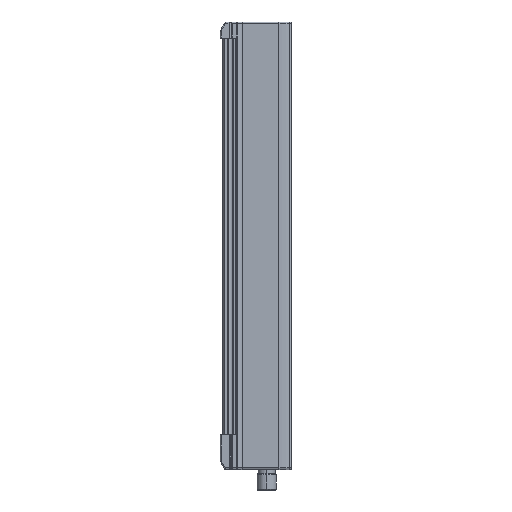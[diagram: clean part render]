
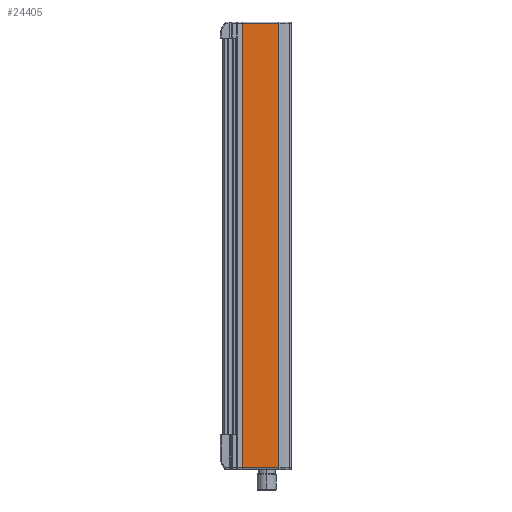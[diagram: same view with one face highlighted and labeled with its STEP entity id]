
A CAD part, left-side view. The second image highlights one B-rep face of the part: STEP entity #24405.
In plain terms, the highlighted planar face has unit normal (-1, 0, 0).
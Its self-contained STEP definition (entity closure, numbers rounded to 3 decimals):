
#476 = VERTEX_POINT ( 'NONE', #7871 ) ;
#636 = ORIENTED_EDGE ( 'NONE', *, *, #3624, .T. ) ;
#1588 = LINE ( 'NONE', #13991, #12571 ) ;
#2070 = AXIS2_PLACEMENT_3D ( 'NONE', #11055, #19155, #2834 ) ;
#2351 = DIRECTION ( 'NONE',  ( 0., 1., 0. ) ) ;
#2834 = DIRECTION ( 'NONE',  ( 0., -1., 0. ) ) ;
#2885 = DIRECTION ( 'NONE',  ( 0., 0., -1. ) ) ;
#3624 = EDGE_CURVE ( 'NONE', #476, #7281, #25743, .T. ) ;
#3710 = VERTEX_POINT ( 'NONE', #3723 ) ;
#3723 = CARTESIAN_POINT ( 'NONE',  ( -22.5, 8.8, 259.15 ) ) ;
#3900 = DIRECTION ( 'NONE',  ( 0., 0., -1. ) ) ;
#5065 = EDGE_LOOP ( 'NONE', ( #8883, #11138, #14797, #636 ) ) ;
#5072 = LINE ( 'NONE', #25311, #24288 ) ;
#5506 = CARTESIAN_POINT ( 'NONE',  ( -22.5, -14.5, -21. ) ) ;
#7281 = VERTEX_POINT ( 'NONE', #13776 ) ;
#7871 = CARTESIAN_POINT ( 'NONE',  ( -22.5, 8.8, -21. ) ) ;
#8883 = ORIENTED_EDGE ( 'NONE', *, *, #12435, .F. ) ;
#11055 = CARTESIAN_POINT ( 'NONE',  ( -22.5, 0., 250. ) ) ;
#11138 = ORIENTED_EDGE ( 'NONE', *, *, #21169, .T. ) ;
#11588 = EDGE_CURVE ( 'NONE', #3710, #476, #5072, .T. ) ;
#12328 = LINE ( 'NONE', #20575, #26669 ) ;
#12435 = EDGE_CURVE ( 'NONE', #21044, #7281, #1588, .T. ) ;
#12571 = VECTOR ( 'NONE', #3900, 1000. ) ;
#13776 = CARTESIAN_POINT ( 'NONE',  ( -22.5, -14.5, -21. ) ) ;
#13991 = CARTESIAN_POINT ( 'NONE',  ( -22.5, -14.5, 250. ) ) ;
#14479 = CARTESIAN_POINT ( 'NONE',  ( -22.5, -14.5, 259.15 ) ) ;
#14797 = ORIENTED_EDGE ( 'NONE', *, *, #11588, .T. ) ;
#15849 = DIRECTION ( 'NONE',  ( 0., -1., 0. ) ) ;
#19155 = DIRECTION ( 'NONE',  ( -1., 0., 0. ) ) ;
#20575 = CARTESIAN_POINT ( 'NONE',  ( -22.5, 8.8, 259.15 ) ) ;
#21044 = VERTEX_POINT ( 'NONE', #14479 ) ;
#21169 = EDGE_CURVE ( 'NONE', #21044, #3710, #12328, .T. ) ;
#23070 = PLANE ( 'NONE',  #2070 ) ;
#24288 = VECTOR ( 'NONE', #2885, 1000. ) ;
#24405 = ADVANCED_FACE ( 'NONE', ( #25122 ), #23070, .T. ) ;
#25122 = FACE_OUTER_BOUND ( 'NONE', #5065, .T. ) ;
#25311 = CARTESIAN_POINT ( 'NONE',  ( -22.5, 8.8, 250. ) ) ;
#25743 = LINE ( 'NONE', #5506, #25807 ) ;
#25807 = VECTOR ( 'NONE', #15849, 1000. ) ;
#26669 = VECTOR ( 'NONE', #2351, 1000. ) ;
